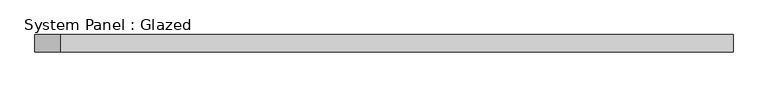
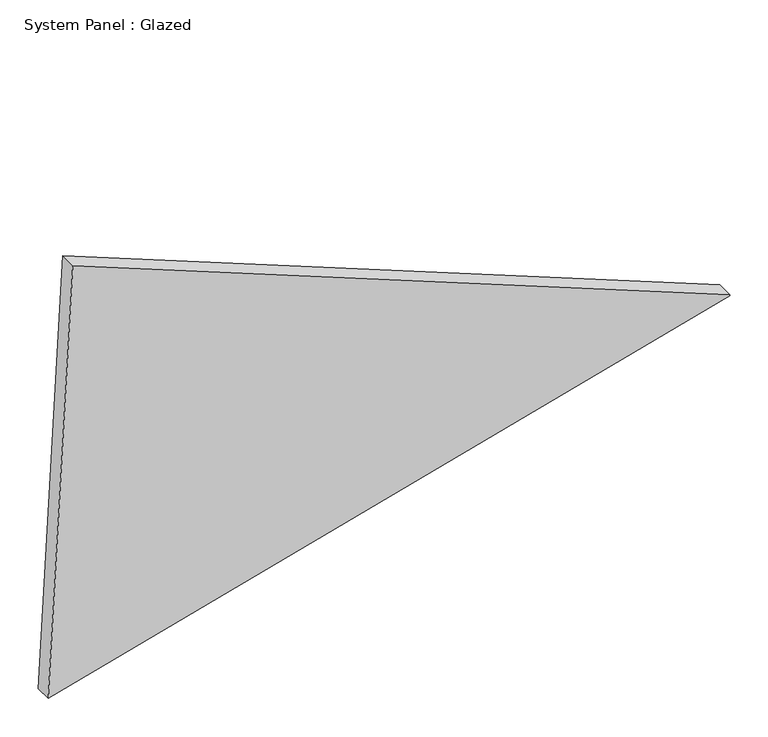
"""IFC4 building model written with IfcOpenShell, lengths in millimetres: plate geometry, System Panel : Glazed."""

from ifc_helpers import new_model, si_unit, frame, origin, place, context, project, spatial, polyline, outline, extrude, source, transform, mapped, element, save


def system_panel_glazed_c12102e3(model_context):
    return source(origin(), model_context, "Body", "SweptSolid", [
        extrude(outline(polyline([(0.0, -513.1698055), (281.9449746, 513.0810333), (283.5647837, 513.1698055), (675.9698497, -476.1238905), (0.0, -513.1698055)])), frame((0.0, -44.45, 0.0), z_axis=(0.0, 1.0, 0.0), x_axis=(0.0, 0.0, 1.0)), (0.0, 0.0, 1.0), 25.4),
    ])


if __name__ == "__main__":
    model = new_model("IFC4")
    model_context = context("Model", 3, world=origin())
    ifc_project = project(units=[si_unit("LENGTHUNIT", "METRE", prefix="MILLI")], contexts=[model_context])
    site = spatial("IfcSite", under=ifc_project)
    building = spatial("IfcBuilding", under=site)
    placement = place(None, origin())
    system_panel_glazed_shape = system_panel_glazed_c12102e3(model_context)
    element("IfcPlate", 1, ObjectType="System Panel : Glazed", at=placement, inside=building, context=model_context, shape_type="MappedRepresentation", body=[
        mapped(system_panel_glazed_shape, transform((0.0, 0.0, 0.0), x_axis=(1.0, 0.0, 0.0), y_axis=(0.0, 1.0, 0.0), z_axis=(0.0, 0.0, 1.0))),
    ])
    save(model, "model.ifc")
